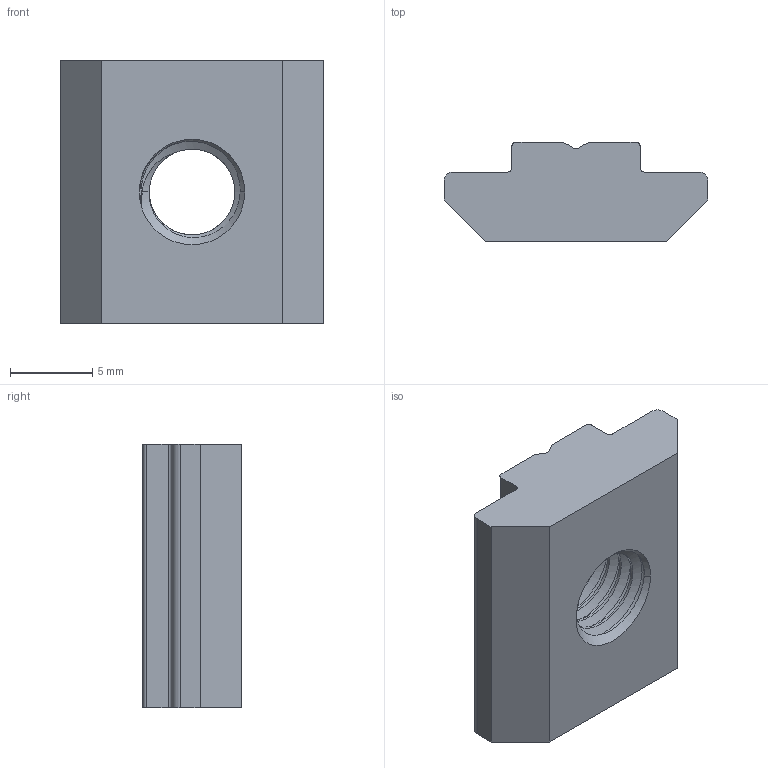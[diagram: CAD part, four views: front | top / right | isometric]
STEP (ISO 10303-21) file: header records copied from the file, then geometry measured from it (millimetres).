
FILE_DESCRIPTION (( 'STEP AP203' ), '1' );
FILE_NAME ('2111.008.003.STEP', '2023-05-24T03:26:01', ( '' ), ( '' ), 'SwSTEP 2.0', 'SolidWorks 2022', '' );
FILE_SCHEMA (( 'CONFIG_CONTROL_DESIGN' ));
Length unit declared in the file: millimetre
Products named in the file (1): 2111.008.003
Bounding box: 16 x 6 x 16 mm (x, y, z)
Volume: 1034.6 mm3; surface area: 905.3 mm2
Topology: 1 solids, 1 shells, 46 faces, 135 edges, 90 vertices
Faces by surface type: cylinder 18, plane 17, cone 7, bspline 4
Entity records: 4346 total; most frequent: CARTESIAN_POINT 3155, ORIENTED_EDGE 270, DIRECTION 195, EDGE_CURVE 135, VERTEX_POINT 90, LINE 65, VECTOR 65, AXIS2_PLACEMENT_3D 65
